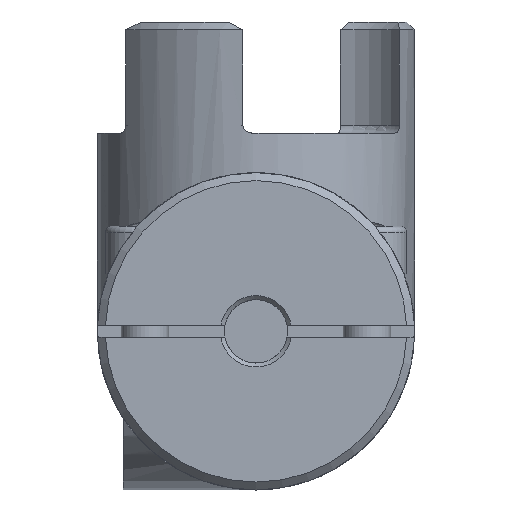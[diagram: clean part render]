
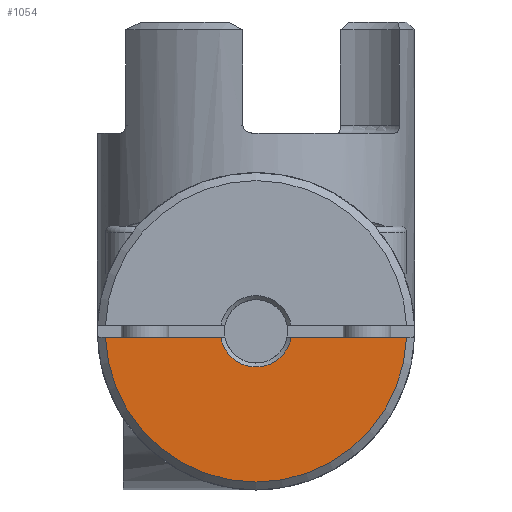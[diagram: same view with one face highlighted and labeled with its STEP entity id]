
A CAD part, front view. The second image highlights one B-rep face of the part: STEP entity #1054.
In plain terms, the highlighted planar face has unit normal (0, -1, 0) as drawn and (1, 0, 0) by its records, which use the part's own axes.
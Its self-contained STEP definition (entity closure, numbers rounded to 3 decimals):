
#1054 = ADVANCED_FACE( '', ( #2059 ), #2060, .F. );
#2059 = FACE_OUTER_BOUND( '', #2664, .T. );
#2060 = PLANE( '', #2665 );
#2664 = EDGE_LOOP( '', ( #4091, #4092, #4093, #4094 ) );
#2665 = AXIS2_PLACEMENT_3D( '', #4095, #4096, #4097 );
#4091 = ORIENTED_EDGE( '', *, *, #5035, .F. );
#4092 = ORIENTED_EDGE( '', *, *, #5036, .T. );
#4093 = ORIENTED_EDGE( '', *, *, #5030, .F. );
#4094 = ORIENTED_EDGE( '', *, *, #5037, .T. );
#4095 = CARTESIAN_POINT( '', ( 0., 0., 0. ) );
#4096 = DIRECTION( '', ( -1., 0., 0. ) );
#4097 = DIRECTION( '', ( 0., -1., 0. ) );
#5030 = EDGE_CURVE( '', #5835, #5836, #5837, .T. );
#5035 = EDGE_CURVE( '', #5844, #5845, #5846, .T. );
#5036 = EDGE_CURVE( '', #5844, #5836, #5847, .T. );
#5037 = EDGE_CURVE( '', #5835, #5845, #5848, .F. );
#5835 = VERTEX_POINT( '', #7339 );
#5836 = VERTEX_POINT( '', #7340 );
#5837 = LINE( '', #7341, #7342 );
#5844 = VERTEX_POINT( '', #7357 );
#5845 = VERTEX_POINT( '', #7358 );
#5846 = LINE( '', #7359, #7360 );
#5847 = CIRCLE( '', #7361, 4.5 );
#5848 = CIRCLE( '', #7362, 19. );
#7339 = CARTESIAN_POINT( '', ( 0., -18.985, -0.75 ) );
#7340 = CARTESIAN_POINT( '', ( 0., -4.437, -0.75 ) );
#7341 = CARTESIAN_POINT( '', ( 0., -20., -0.75 ) );
#7342 = VECTOR( '', #7903, 1000. );
#7357 = CARTESIAN_POINT( '', ( 0., 4.437, -0.75 ) );
#7358 = CARTESIAN_POINT( '', ( 0., 18.985, -0.75 ) );
#7359 = CARTESIAN_POINT( '', ( 0., -20., -0.75 ) );
#7360 = VECTOR( '', #7906, 1000. );
#7361 = AXIS2_PLACEMENT_3D( '', #7907, #7908, #7909 );
#7362 = AXIS2_PLACEMENT_3D( '', #7910, #7911, #7912 );
#7903 = DIRECTION( '', ( 0., 1., 0. ) );
#7906 = DIRECTION( '', ( 0., 1., 0. ) );
#7907 = CARTESIAN_POINT( '', ( 0., 0., 0. ) );
#7908 = DIRECTION( '', ( -1., 0., 0. ) );
#7909 = DIRECTION( '', ( 0., -1., 0. ) );
#7910 = CARTESIAN_POINT( '', ( 0., 0., 0. ) );
#7911 = DIRECTION( '', ( -1., 0., 0. ) );
#7912 = DIRECTION( '', ( 0., -1., 0. ) );
